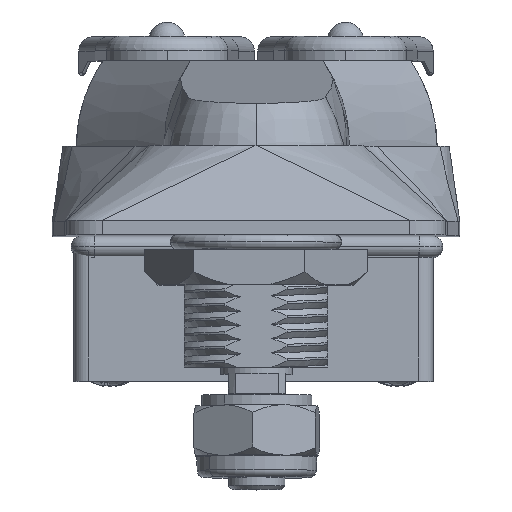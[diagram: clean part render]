
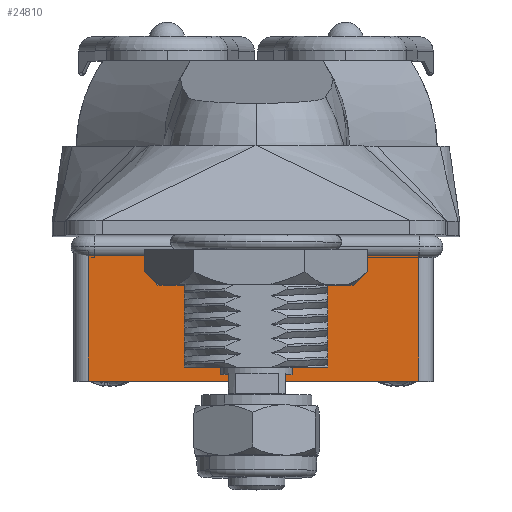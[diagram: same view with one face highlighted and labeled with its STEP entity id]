
A CAD part, top view. The second image highlights one B-rep face of the part: STEP entity #24810.
In plain terms, the highlighted planar face has unit normal (0, 0, 1) as drawn and (0, -1, 0) by its records, which use the part's own axes.
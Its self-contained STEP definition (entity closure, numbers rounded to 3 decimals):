
#61 = VERTEX_POINT ( 'NONE', #40089 ) ;
#124 = VERTEX_POINT ( 'NONE', #40576 ) ;
#3964 = CARTESIAN_POINT ( 'NONE',  ( 2., 0., 18.3 ) ) ;
#3965 = AXIS2_PLACEMENT_3D ( 'NONE', #3969, #4016, #4015 ) ;
#3969 = CARTESIAN_POINT ( 'NONE',  ( 0., 0., 18.3 ) ) ;
#3976 = PLANE ( 'NONE',  #3965 ) ;
#3984 = FACE_OUTER_BOUND ( 'NONE', #24839, .T. ) ;
#3992 = CARTESIAN_POINT ( 'NONE',  ( 48.2, 0., 18.3 ) ) ;
#3994 = DIRECTION ( 'NONE',  ( 1., 0., 0. ) ) ;
#3995 = VECTOR ( 'NONE', #3994, 1000. ) ;
#3996 = CARTESIAN_POINT ( 'NONE',  ( 0., 0., 0. ) ) ;
#3997 = LINE ( 'NONE', #3996, #3995 ) ;
#4001 = DIRECTION ( 'NONE',  ( 0., 0., 1. ) ) ;
#4002 = VECTOR ( 'NONE', #4001, 1000. ) ;
#4003 = CARTESIAN_POINT ( 'NONE',  ( 48.2, 0., 18.3 ) ) ;
#4004 = LINE ( 'NONE', #4003, #4002 ) ;
#4005 = DIRECTION ( 'NONE',  ( 1., 0., 0. ) ) ;
#4006 = VECTOR ( 'NONE', #4005, 1000. ) ;
#4007 = CARTESIAN_POINT ( 'NONE',  ( 0., 0., 18.3 ) ) ;
#4008 = LINE ( 'NONE', #4007, #4006 ) ;
#4015 = DIRECTION ( 'NONE',  ( 0., 0., 1. ) ) ;
#4016 = DIRECTION ( 'NONE',  ( 0., 1., 0. ) ) ;
#4076 = VECTOR ( 'NONE', #4157, 1000. ) ;
#4077 = CARTESIAN_POINT ( 'NONE',  ( 2., 0., 18.3 ) ) ;
#4078 = LINE ( 'NONE', #4077, #4076 ) ;
#4157 = DIRECTION ( 'NONE',  ( 0., 0., -1. ) ) ;
#24784 = ORIENTED_EDGE ( 'NONE', *, *, #24921, .T. ) ;
#24810 = ADVANCED_FACE ( 'NONE', ( #3984 ), #3976, .F. ) ;
#24811 = VERTEX_POINT ( 'NONE', #3964 ) ;
#24812 = ORIENTED_EDGE ( 'NONE', *, *, #24824, .T. ) ;
#24818 = ORIENTED_EDGE ( 'NONE', *, *, #24821, .T. ) ;
#24819 = EDGE_CURVE ( 'NONE', #24811, #24831, #4008, .T. ) ;
#24821 = EDGE_CURVE ( 'NONE', #124, #24831, #4004, .T. ) ;
#24822 = ORIENTED_EDGE ( 'NONE', *, *, #24819, .F. ) ;
#24824 = EDGE_CURVE ( 'NONE', #61, #124, #3997, .T. ) ;
#24831 = VERTEX_POINT ( 'NONE', #3992 ) ;
#24839 = EDGE_LOOP ( 'NONE', ( #24812, #24818, #24822, #24784 ) ) ;
#24921 = EDGE_CURVE ( 'NONE', #24811, #61, #4078, .T. ) ;
#40089 = CARTESIAN_POINT ( 'NONE',  ( 2., 0., 0. ) ) ;
#40576 = CARTESIAN_POINT ( 'NONE',  ( 48.2, 0., 0. ) ) ;
